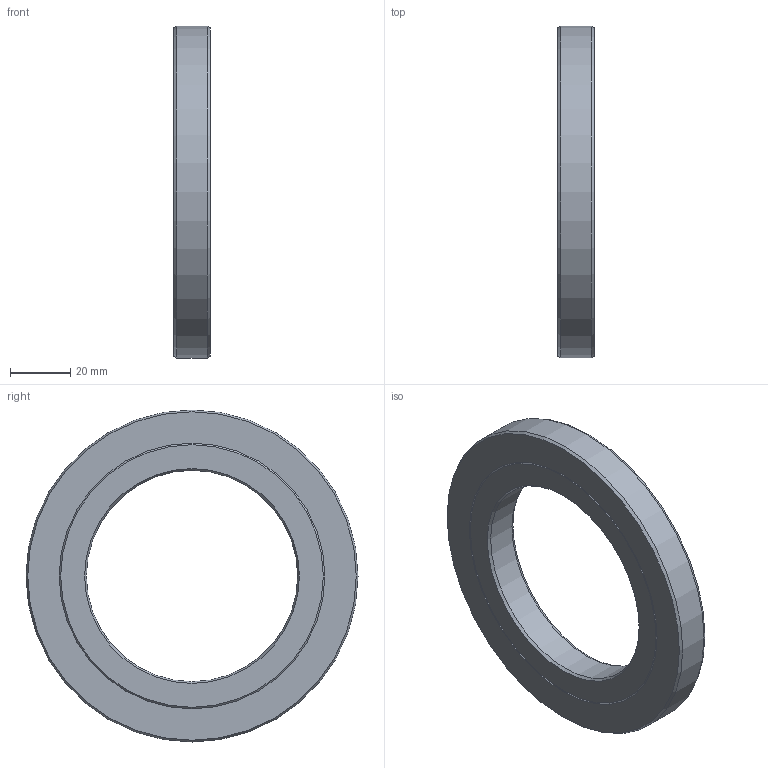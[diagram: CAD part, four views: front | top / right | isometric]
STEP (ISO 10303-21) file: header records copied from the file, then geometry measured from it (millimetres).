
FILE_DESCRIPTION(/* description */ (''),/* implementation_level */ '2;1');
FILE_NAME(/* name */ '301643 S70x110x12.stp',/* time_stamp */ '2016-12-16T13:53:41+01:00',/* author */ (''),/* organization */ (''),/* preprocessor_version */ 'ST-DEVELOPER v15',/* originating_system */ 'SIEMENS PLM Software NX 8.5',/* authorisation */ '');
FILE_SCHEMA (('CONFIG_CONTROL_DESIGN'));
Length unit declared in the file: millimetre
Products named in the file (1): ATE0000143_01
Bounding box: 12 x 110 x 110 mm (x, y, z)
Volume: 65746.4 mm3; surface area: 26415.5 mm2
Topology: 2 solids, 2 shells, 16 faces, 30 edges, 18 vertices
Faces by surface type: cone 10, plane 4, cylinder 2
Full cylindrical faces by diameter (mm): 70 x1, 110 x1
Entity records: 414 total; most frequent: DIRECTION 66, CARTESIAN_POINT 49, AXIS2_PLACEMENT_3D 33, FACE_BOUND 32, EDGE_LOOP 32, ORIENTED_EDGE 32, ADVANCED_FACE 16, VERTEX_POINT 16
